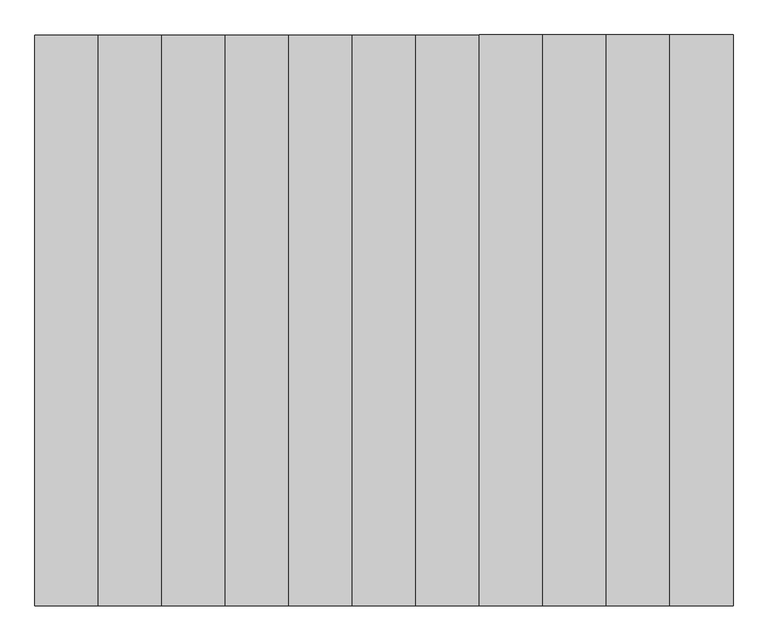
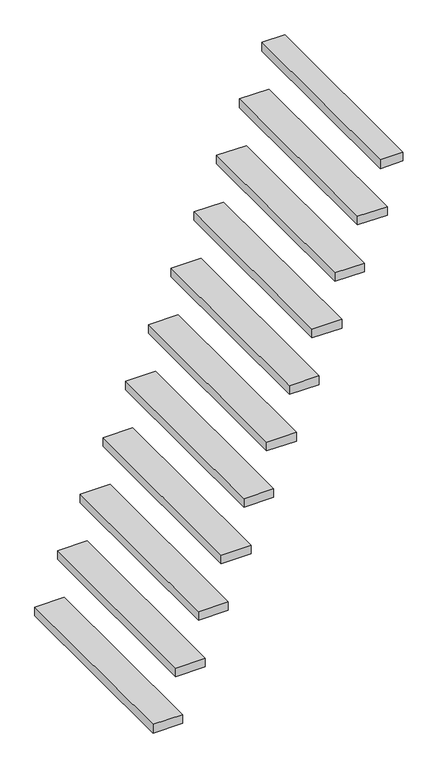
"""IFC4 building model written with IfcOpenShell, lengths in millimetres: stair flight geometry, Holz_40 mm Auftritt."""

from ifc_helpers import new_model, si_unit, frame, origin, place, context, project, spatial, polyline, outline, extrude, source, transform, mapped, element, save


def stair_flight_21483602(model_context):
    return source(origin(), model_context, "Body", "SweptSolid", [
        extrude(outline(polyline([(3620.0, 5460.0), (3620.0, 4560.0), (3490.0, 4560.0), (3490.0, 5460.0), (3620.0, 5460.0)])), frame((0.0, 0.0, 3937.2727273), z_axis=(0.0, 0.0, 1.0), x_axis=(1.0, 0.0, 0.0)), (0.0, 0.0, 1.0), 40.0),
        extrude(outline(polyline([(3720.0, 5460.0), (3720.0, 4560.0), (3590.0, 4560.0), (3590.0, 5460.0), (3720.0, 5460.0)])), frame((0.0, 0.0, 4164.5454545), z_axis=(0.0, 0.0, 1.0), x_axis=(1.0, 0.0, 0.0)), (0.0, 0.0, 1.0), 40.0),
        extrude(outline(polyline([(3820.0, 5460.0), (3820.0, 4560.0), (3690.0, 4560.0), (3690.0, 5460.0), (3820.0, 5460.0)])), frame((0.0, 0.0, 4391.8181818), z_axis=(0.0, 0.0, 1.0), x_axis=(1.0, 0.0, 0.0)), (0.0, 0.0, 1.0), 40.0),
        extrude(outline(polyline([(3920.0, 5460.0), (3920.0, 4560.0), (3790.0, 4560.0), (3790.0, 5460.0), (3920.0, 5460.0)])), frame((0.0, 0.0, 4619.0909091), z_axis=(0.0, 0.0, 1.0), x_axis=(1.0, 0.0, 0.0)), (0.0, 0.0, 1.0), 40.0),
        extrude(outline(polyline([(4020.0, 5460.0), (4020.0, 4560.0), (3890.0, 4560.0), (3890.0, 5460.0), (4020.0, 5460.0)])), frame((0.0, 0.0, 4846.3636364), z_axis=(0.0, 0.0, 1.0), x_axis=(1.0, 0.0, 0.0)), (0.0, 0.0, 1.0), 40.0),
        extrude(outline(polyline([(4120.0, 5460.0), (4120.0, 4560.0), (3990.0, 4560.0), (3990.0, 5460.0), (4120.0, 5460.0)])), frame((0.0, 0.0, 5073.6363636), z_axis=(0.0, 0.0, 1.0), x_axis=(1.0, 0.0, 0.0)), (0.0, 0.0, 1.0), 40.0),
        extrude(outline(polyline([(4220.0, 5460.0), (4220.0, 4560.0), (4090.0, 4560.0), (4090.0, 5460.0), (4220.0, 5460.0)])), frame((0.0, 0.0, 5300.9090909), z_axis=(0.0, 0.0, 1.0), x_axis=(1.0, 0.0, 0.0)), (0.0, 0.0, 1.0), 40.0),
        extrude(outline(polyline([(4320.0, 5460.0), (4320.0, 4560.0), (4190.0, 4560.0), (4190.0, 5460.0), (4320.0, 5460.0)])), frame((0.0, 0.0, 5528.1818182), z_axis=(0.0, 0.0, 1.0), x_axis=(1.0, 0.0, 0.0)), (0.0, 0.0, 1.0), 40.0),
        extrude(outline(polyline([(4420.0, 5460.0), (4420.0, 4560.0), (4290.0, 4560.0), (4290.0, 5460.0), (4420.0, 5460.0)])), frame((0.0, 0.0, 5755.4545455), z_axis=(0.0, 0.0, 1.0), x_axis=(1.0, 0.0, 0.0)), (0.0, 0.0, 1.0), 40.0),
        extrude(outline(polyline([(4520.0, 5460.0), (4520.0, 4560.0), (4390.0, 4560.0), (4390.0, 5460.0), (4520.0, 5460.0)])), frame((0.0, 0.0, 5982.7272727), z_axis=(0.0, 0.0, 1.0), x_axis=(1.0, 0.0, 0.0)), (0.0, 0.0, 1.0), 40.0),
        extrude(outline(polyline([(4590.0, 5460.0), (4590.0, 4560.0), (4490.0, 4560.0), (4490.0, 5460.0), (4590.0, 5460.0)])), frame((0.0, 0.0, 6210.0), z_axis=(0.0, 0.0, 1.0), x_axis=(1.0, 0.0, 0.0)), (0.0, 0.0, 1.0), 40.0),
    ])


if __name__ == "__main__":
    model = new_model("IFC4")
    model_context = context("Model", 3, world=origin())
    ifc_project = project(units=[si_unit("LENGTHUNIT", "METRE", prefix="MILLI")], contexts=[model_context])
    site = spatial("IfcSite", under=ifc_project)
    building = spatial("IfcBuilding", under=site)
    placement = place(None, origin())
    stair_flight_shape = stair_flight_21483602(model_context)
    element("IfcStairFlight", 1, ObjectType="Holz_40 mm Auftritt", at=placement, inside=building, context=model_context, shape_type="MappedRepresentation", body=[
        mapped(stair_flight_shape, transform((0.0, 0.0, 0.0), x_axis=(1.0, 0.0, 0.0), y_axis=(0.0, 1.0, 0.0), z_axis=(0.0, 0.0, 1.0))),
    ])
    save(model, "model.ifc")
